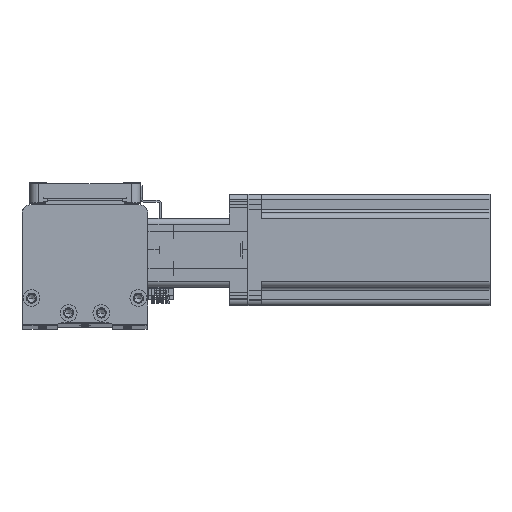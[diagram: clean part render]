
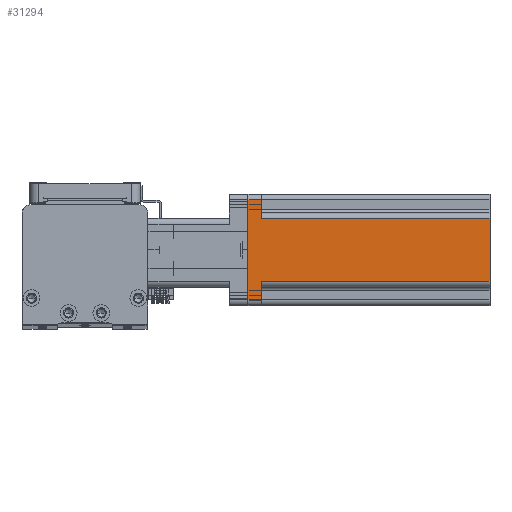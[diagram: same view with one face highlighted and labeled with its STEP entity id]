
A CAD part, top view. The second image highlights one B-rep face of the part: STEP entity #31294.
In plain terms, the highlighted planar face has unit normal (0, 0, 1) as drawn and (1, 0, 0) by its records, which use the part's own axes.
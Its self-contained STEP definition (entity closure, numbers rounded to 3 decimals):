
#1809 = ORIENTED_EDGE ( 'NONE', *, *, #33833, .T. ) ;
#2025 = VECTOR ( 'NONE', #21904, 1000. ) ;
#2610 = ORIENTED_EDGE ( 'NONE', *, *, #33634, .F. ) ;
#2941 = CARTESIAN_POINT ( 'NONE',  ( 30., 17., 130.7 ) ) ;
#4472 = DIRECTION ( 'NONE',  ( 0., 0., 1. ) ) ;
#5765 = LINE ( 'NONE', #42087, #33922 ) ;
#6683 = CARTESIAN_POINT ( 'NONE',  ( 30., -30., 7.5 ) ) ;
#8308 = EDGE_LOOP ( 'NONE', ( #49804, #28960, #26548, #39743, #35984, #41583, #2610, #1809 ) ) ;
#10019 = DIRECTION ( 'NONE',  ( 0., 0., -1. ) ) ;
#11543 = VERTEX_POINT ( 'NONE', #38145 ) ;
#11694 = LINE ( 'NONE', #19889, #32067 ) ;
#11731 = VECTOR ( 'NONE', #33497, 1000. ) ;
#11872 = CARTESIAN_POINT ( 'NONE',  ( 30., 17., 130.7 ) ) ;
#12250 = VERTEX_POINT ( 'NONE', #29740 ) ;
#12947 = LINE ( 'NONE', #6683, #11731 ) ;
#13662 = DIRECTION ( 'NONE',  ( -1., 0., 0. ) ) ;
#14411 = DIRECTION ( 'NONE',  ( 0., 1., 0. ) ) ;
#15248 = DIRECTION ( 'NONE',  ( 0., 0., -1. ) ) ;
#16858 = CARTESIAN_POINT ( 'NONE',  ( 30., 30., 7.5 ) ) ;
#17776 = VECTOR ( 'NONE', #10019, 1000. ) ;
#18071 = DIRECTION ( 'NONE',  ( 0., 1., 0. ) ) ;
#18930 = VERTEX_POINT ( 'NONE', #11872 ) ;
#19469 = VECTOR ( 'NONE', #18071, 1000. ) ;
#19889 = CARTESIAN_POINT ( 'NONE',  ( 30., 27., 130.7 ) ) ;
#20664 = LINE ( 'NONE', #41081, #19469 ) ;
#21218 = PLANE ( 'NONE',  #38240 ) ;
#21450 = CARTESIAN_POINT ( 'NONE',  ( 30., -17., 7.5 ) ) ;
#21904 = DIRECTION ( 'NONE',  ( 0., 0., 1. ) ) ;
#26548 = ORIENTED_EDGE ( 'NONE', *, *, #33184, .T. ) ;
#27899 = LINE ( 'NONE', #21450, #17776 ) ;
#28207 = VERTEX_POINT ( 'NONE', #44328 ) ;
#28279 = EDGE_CURVE ( 'NONE', #12250, #11543, #20664, .T. ) ;
#28359 = DIRECTION ( 'NONE',  ( 0., 1., 0. ) ) ;
#28960 = ORIENTED_EDGE ( 'NONE', *, *, #33122, .T. ) ;
#29135 = VECTOR ( 'NONE', #14411, 1000. ) ;
#29740 = CARTESIAN_POINT ( 'NONE',  ( 30., -27., 0. ) ) ;
#30061 = CARTESIAN_POINT ( 'NONE',  ( 30., -17., 7.5 ) ) ;
#30820 = EDGE_CURVE ( 'NONE', #28207, #18930, #48424, .T. ) ;
#31294 = ADVANCED_FACE ( 'NONE', ( #33316 ), #21218, .F. ) ;
#32067 = VECTOR ( 'NONE', #4472, 1000. ) ;
#32094 = VERTEX_POINT ( 'NONE', #38715 ) ;
#32605 = LINE ( 'NONE', #2941, #2025 ) ;
#33122 = EDGE_CURVE ( 'NONE', #28207, #35455, #27899, .T. ) ;
#33184 = EDGE_CURVE ( 'NONE', #35455, #32094, #12947, .T. ) ;
#33316 = FACE_OUTER_BOUND ( 'NONE', #8308, .T. ) ;
#33335 = EDGE_CURVE ( 'NONE', #32094, #12250, #5765, .T. ) ;
#33487 = EDGE_CURVE ( 'NONE', #11543, #44568, #11694, .T. ) ;
#33497 = DIRECTION ( 'NONE',  ( 0., -1., 0. ) ) ;
#33634 = EDGE_CURVE ( 'NONE', #35547, #44568, #40489, .T. ) ;
#33833 = EDGE_CURVE ( 'NONE', #35547, #18930, #32605, .T. ) ;
#33922 = VECTOR ( 'NONE', #15248, 1000. ) ;
#35455 = VERTEX_POINT ( 'NONE', #30061 ) ;
#35547 = VERTEX_POINT ( 'NONE', #45911 ) ;
#35984 = ORIENTED_EDGE ( 'NONE', *, *, #28279, .T. ) ;
#36602 = CARTESIAN_POINT ( 'NONE',  ( 30., -30., 130.7 ) ) ;
#37381 = CARTESIAN_POINT ( 'NONE',  ( 30., 27., 7.5 ) ) ;
#38145 = CARTESIAN_POINT ( 'NONE',  ( 30., 27., 0. ) ) ;
#38240 = AXIS2_PLACEMENT_3D ( 'NONE', #36602, #13662, #40509 ) ;
#38715 = CARTESIAN_POINT ( 'NONE',  ( 30., -27., 7.5 ) ) ;
#39743 = ORIENTED_EDGE ( 'NONE', *, *, #33335, .T. ) ;
#40489 = LINE ( 'NONE', #16858, #49519 ) ;
#40509 = DIRECTION ( 'NONE',  ( 0., 0., 1. ) ) ;
#41081 = CARTESIAN_POINT ( 'NONE',  ( 30., -30., 0. ) ) ;
#41583 = ORIENTED_EDGE ( 'NONE', *, *, #33487, .T. ) ;
#42087 = CARTESIAN_POINT ( 'NONE',  ( 30., -27., 130.7 ) ) ;
#44328 = CARTESIAN_POINT ( 'NONE',  ( 30., -17., 130.7 ) ) ;
#44568 = VERTEX_POINT ( 'NONE', #37381 ) ;
#45911 = CARTESIAN_POINT ( 'NONE',  ( 30., 17., 7.5 ) ) ;
#48424 = LINE ( 'NONE', #49137, #29135 ) ;
#49137 = CARTESIAN_POINT ( 'NONE',  ( 30., -30., 130.7 ) ) ;
#49519 = VECTOR ( 'NONE', #28359, 1000. ) ;
#49804 = ORIENTED_EDGE ( 'NONE', *, *, #30820, .F. ) ;
